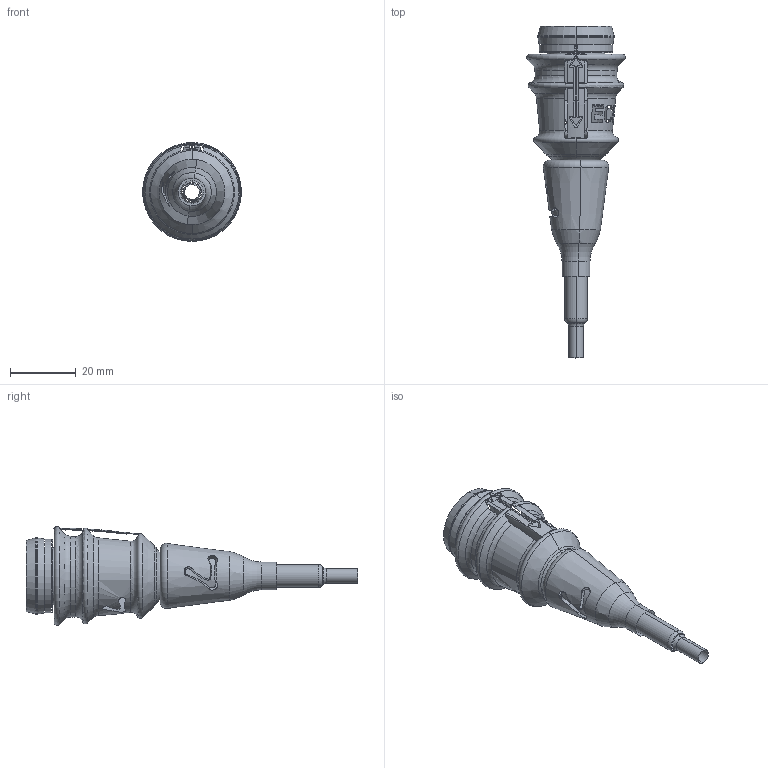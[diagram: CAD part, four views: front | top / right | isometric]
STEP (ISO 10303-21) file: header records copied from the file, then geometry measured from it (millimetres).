
FILE_DESCRIPTION((''),'2;1');
FILE_NAME('LCN-EC5X1-INLF_ASM','2025-08-24T13:03:28',('Neil'),(''),'CREO PARAMETRIC BY PTC INC, 2023134','CREO PARAMETRIC BY PTC INC, 2023134','');
FILE_SCHEMA(('CONFIG_CONTROL_DESIGN'));
Length unit declared in the file: millimetre
Products named in the file (1): LCN-EC5X1-INLF_ASM
Bounding box: 30.1 x 101.12 x 30.1 mm (x, y, z)
Surface area: 7110.2 mm2 (no closed solid volume)
Topology: 0 solids, 19 shells, 64 faces, 391 edges, 336 vertices
Faces by surface type: torus 28, cone 15, cylinder 11, bspline 8, plane 2
Entity records: 5551 total; most frequent: CARTESIAN_POINT 3040, ORIENTED_EDGE 473, DIRECTION 392, EDGE_CURVE 391, VERTEX_POINT 336, B_SPLINE_CURVE_WITH_KNOTS 238, AXIS2_PLACEMENT_3D 182, CIRCLE 125
